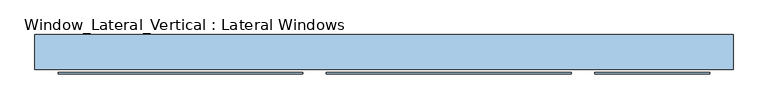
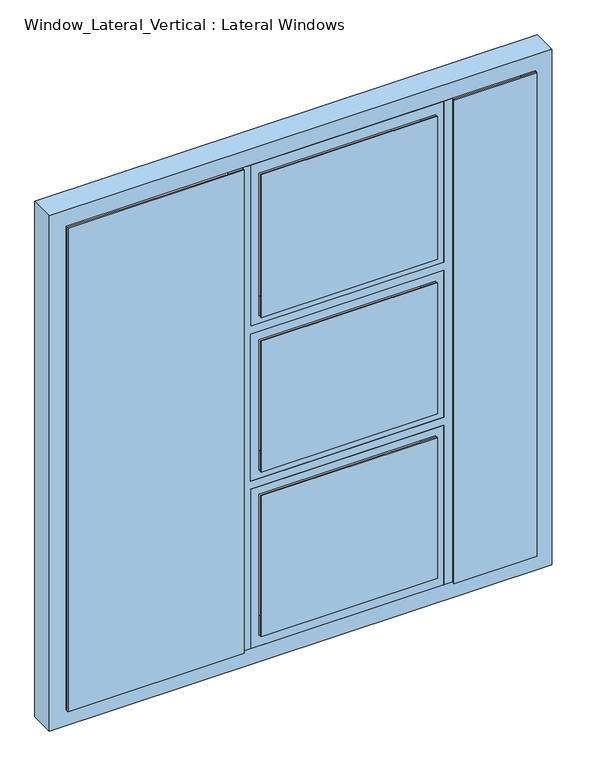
"""IFC4 building model written with IfcOpenShell, lengths in millimetres: window geometry, Window_Lateral_Vertical : Lateral Windows."""

from ifc_helpers import new_model, si_unit, frame, origin, place, context, project, spatial, polyline, outline, extrude, source, transform, mapped, element, save


def window_lateral_vertical_lateral_windows_fbe11301(model_context):
    return source(origin(), model_context, "Body", "SweptSolid", [
        extrude(outline(polyline([(914.4, 1524.0), (4216.4, 1524.0), (4216.4, -1524.0), (914.4, -1524.0), (914.4, 1524.0)]), holes=[polyline([(4114.8, 1422.4), (1016.0, 1422.4), (1016.0, -1422.4), (4114.8, -1422.4), (4114.8, 1422.4)])]), frame((0.0, -76.2, 0.0), z_axis=(0.0, 1.0, 0.0), x_axis=(0.0, 0.0, 1.0)), (0.0, 0.0, 1.0), 152.4),
        extrude(outline(polyline([(-355.1092545, -95.25), (-1422.4, -95.25), (-1422.4, -88.9), (-355.1092545, -88.9), (-355.1092545, -95.25)])), frame((0.0, 0.0, 1016.0), z_axis=(0.0, 0.0, 1.0), x_axis=(1.0, 0.0, 0.0)), (0.0, 0.0, 1.0), 3098.8),
        extrude(outline(polyline([(1422.4, -95.25), (919.0181818, -95.25), (919.0181818, -88.9), (1422.4, -88.9), (1422.4, -95.25)])), frame((0.0, 0.0, 1016.0), z_axis=(0.0, 0.0, 1.0), x_axis=(1.0, 0.0, 0.0)), (0.0, 0.0, 1.0), 3098.8),
        extrude(outline(polyline([(4114.8, 868.2181818), (3080.3272727, 868.2181818), (3080.3272727, -302.4909091), (4114.8, -302.4909091), (4114.8, -353.2909091), (1016.0, -353.2909091), (1016.0, -302.4909091), (2038.9272727, -302.4909091), (2038.9272727, 868.2181818), (1016.0, 868.2181818), (1016.0, 919.0181818), (4114.8, 919.0181818), (4114.8, 868.2181818)]), holes=[polyline([(2089.7272727, 868.2181818), (2089.7272727, -302.4909091), (3029.5272727, -302.4909091), (3029.5272727, 868.2181818), (2089.7272727, 868.2181818)])]), frame((0.0, -76.2, 0.0), z_axis=(0.0, 1.0, 0.0), x_axis=(0.0, 0.0, 1.0)), (0.0, 0.0, 1.0), 152.4),
        extrude(outline(polyline([(4114.8, -302.4909091), (3080.3272727, -302.4909091), (3080.3272727, 868.2181818), (4114.8, 868.2181818), (4114.8, -302.4909091)]), holes=[polyline([(3131.1272727, 817.4181818), (3131.1272727, -251.6909091), (4045.5272727, -251.6909091), (4045.5272727, 817.4181818), (3131.1272727, 817.4181818)])]), frame((0.0, -76.2, 0.0), z_axis=(0.0, 1.0, 0.0), x_axis=(0.0, 0.0, 1.0)), (0.0, 0.0, 1.0), 152.4),
        extrude(outline(polyline([(3029.5272727, -302.4909091), (2089.7272727, -302.4909091), (2089.7272727, 868.2181818), (3029.5272727, 868.2181818), (3029.5272727, -302.4909091)]), holes=[polyline([(2140.5272727, 817.4181818), (2140.5272727, -251.6909091), (2978.7272727, -251.6909091), (2978.7272727, 817.4181818), (2140.5272727, 817.4181818)])]), frame((0.0, -76.2, 0.0), z_axis=(0.0, 1.0, 0.0), x_axis=(0.0, 0.0, 1.0)), (0.0, 0.0, 1.0), 152.4),
        extrude(outline(polyline([(2038.9272727, -302.4909091), (1016.0, -302.4909091), (1016.0, 868.2181818), (2038.9272727, 868.2181818), (2038.9272727, -302.4909091)]), holes=[polyline([(1085.2727273, 817.4181818), (1085.2727273, -251.6909091), (1988.1272727, -251.6909091), (1988.1272727, 817.4181818), (1085.2727273, 817.4181818)])]), frame((0.0, -76.2, 0.0), z_axis=(0.0, 1.0, 0.0), x_axis=(0.0, 0.0, 1.0)), (0.0, 0.0, 1.0), 152.4),
        extrude(outline(polyline([(817.4181818, -95.25), (-251.6909091, -95.25), (-251.6909091, -88.9), (817.4181818, -88.9), (817.4181818, -95.25)])), frame((0.0, 0.0, 3131.1272727), z_axis=(0.0, 0.0, 1.0), x_axis=(1.0, 0.0, 0.0)), (0.0, 0.0, 1.0), 914.4),
        extrude(outline(polyline([(817.4181818, -95.25), (-251.6909091, -95.25), (-251.6909091, -88.9), (817.4181818, -88.9), (817.4181818, -95.25)])), frame((0.0, 0.0, 2140.5272727), z_axis=(0.0, 0.0, 1.0), x_axis=(1.0, 0.0, 0.0)), (0.0, 0.0, 1.0), 838.2),
        extrude(outline(polyline([(817.4181818, -95.25), (-251.6909091, -95.25), (-251.6909091, -88.9), (817.4181818, -88.9), (817.4181818, -95.25)])), frame((0.0, 0.0, 1085.2727273), z_axis=(0.0, 0.0, 1.0), x_axis=(1.0, 0.0, 0.0)), (0.0, 0.0, 1.0), 902.8545455),
    ])


if __name__ == "__main__":
    model = new_model("IFC4")
    model_context = context("Model", 3, world=origin())
    ifc_project = project(units=[si_unit("LENGTHUNIT", "METRE", prefix="MILLI")], contexts=[model_context])
    site = spatial("IfcSite", under=ifc_project)
    building = spatial("IfcBuilding", under=site)
    placement = place(None, origin())
    window_lateral_vertical_lateral_windows_shape = window_lateral_vertical_lateral_windows_fbe11301(model_context)
    element("IfcWindow", 1, ObjectType="Window_Lateral_Vertical : Lateral Windows", at=placement, inside=building, context=model_context, shape_type="MappedRepresentation", body=[
        mapped(window_lateral_vertical_lateral_windows_shape, transform((0.0, 0.0, 0.0), x_axis=(1.0, 0.0, 0.0), y_axis=(0.0, 1.0, 0.0), z_axis=(0.0, 0.0, 1.0))),
    ])
    save(model, "model.ifc")
